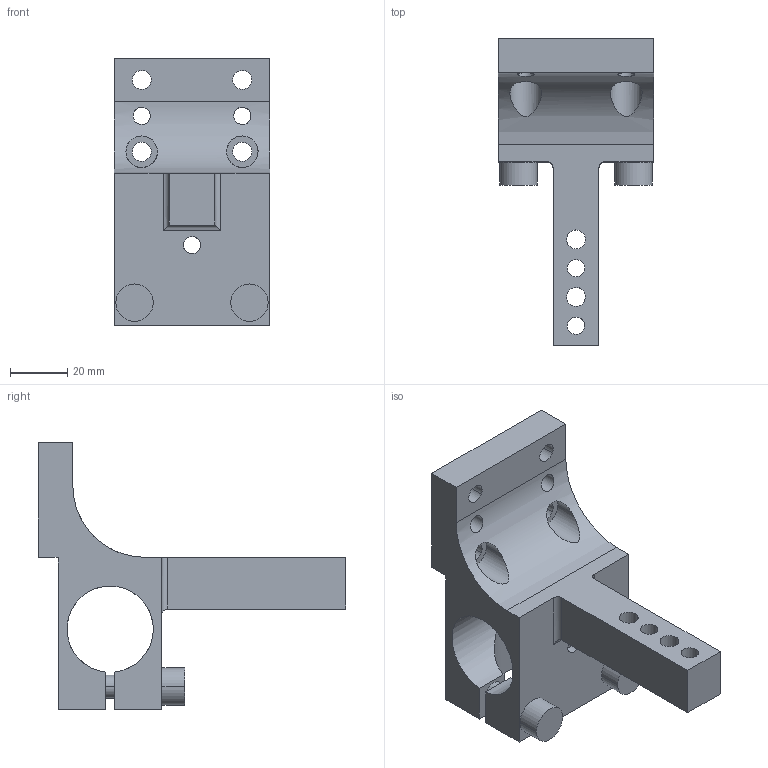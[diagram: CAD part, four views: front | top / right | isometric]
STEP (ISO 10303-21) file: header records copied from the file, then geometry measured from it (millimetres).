
FILE_DESCRIPTION(('CATIA V5 STEP Exchange'),'2;1');
FILE_NAME('\\Tcn-server2\产品部\2-PDD Database\6-Gripping\500-Other product\2-Euro gripper system\Euro Gripper to customer\Euro gripper-3D model for design-V2\VGT181.stp','2013-04-08T08:09:15+00:00',('none'),('none'),'CATIA Version 5 Release 21 GA (IN-10)','CATIA V5 STEP AP203','none');
FILE_SCHEMA(('CONFIG_CONTROL_DESIGN'));
Length unit declared in the file: millimetre
Products named in the file (1): VGT181
Bounding box: 54 x 107 x 93 mm (x, y, z)
Volume: 93919.2 mm3; surface area: 33716 mm2
Topology: 1 solids, 1 shells, 82 faces, 224 edges, 150 vertices
Faces by surface type: cylinder 54, plane 28
Entity records: 2682 total; most frequent: CARTESIAN_POINT 701, ORIENTED_EDGE 448, DIRECTION 286, EDGE_CURVE 224, VERTEX_POINT 150, AXIS2_PLACEMENT_3D 133, EDGE_LOOP 116, VECTOR 108
